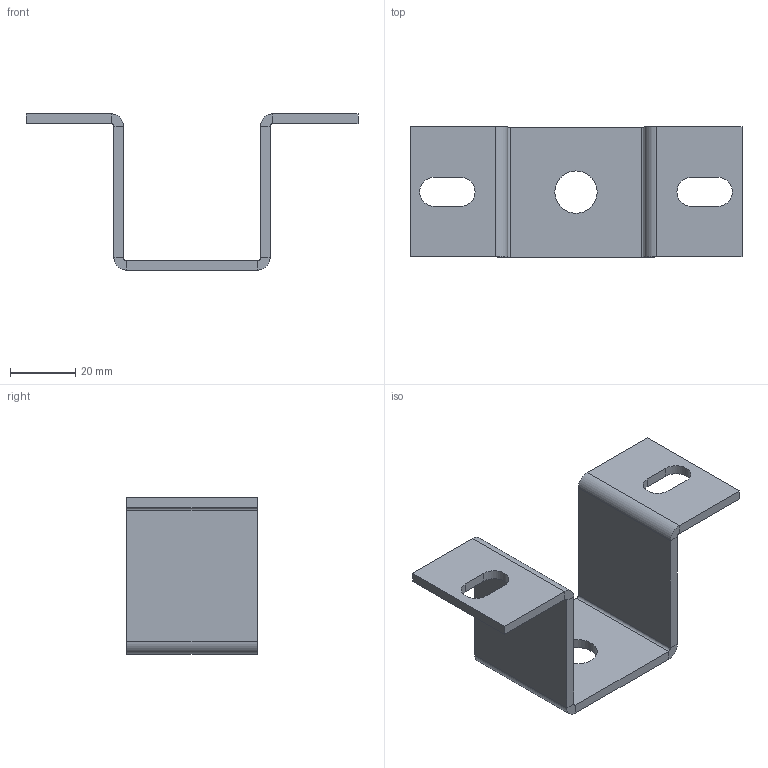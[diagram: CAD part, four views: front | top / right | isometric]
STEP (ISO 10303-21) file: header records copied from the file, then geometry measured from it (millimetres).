
FILE_DESCRIPTION(/* description */ ('Deckenkonsole Nr. 0, 1-fach'),/* implementation_level */ '2;1');
FILE_NAME(/* name */ 'Q:\sge-ma\Produktmanagement-STB\STB\Workspace\TraceParts\Deckenkonsole\010335801.stp',/* time_stamp */ '2018-02-20T12:11:23+01:00',/* author */ ('avschreier'),/* organization */ (''),/* preprocessor_version */ 'ST-DEVELOPER v16.1',/* originating_system */ 'Autodesk Inventor 2016',/* authorisation */ '');
FILE_SCHEMA (('CONFIG_CONTROL_DESIGN'));
Length unit declared in the file: millimetre
Products named in the file (1): 010335801
Bounding box: 102 x 40 x 48 mm (x, y, z)
Volume: 21354.3 mm3; surface area: 15992.6 mm2
Topology: 1 solids, 1 shells, 47 faces, 103 edges, 58 vertices
Faces by surface type: plane 34, cylinder 13
Full cylindrical faces by diameter (mm): 13 x1
Entity records: 1278 total; most frequent: DIRECTION 224, CARTESIAN_POINT 208, ORIENTED_EDGE 204, EDGE_CURVE 102, LINE 76, VECTOR 76, AXIS2_PLACEMENT_3D 74, VERTEX_POINT 58
